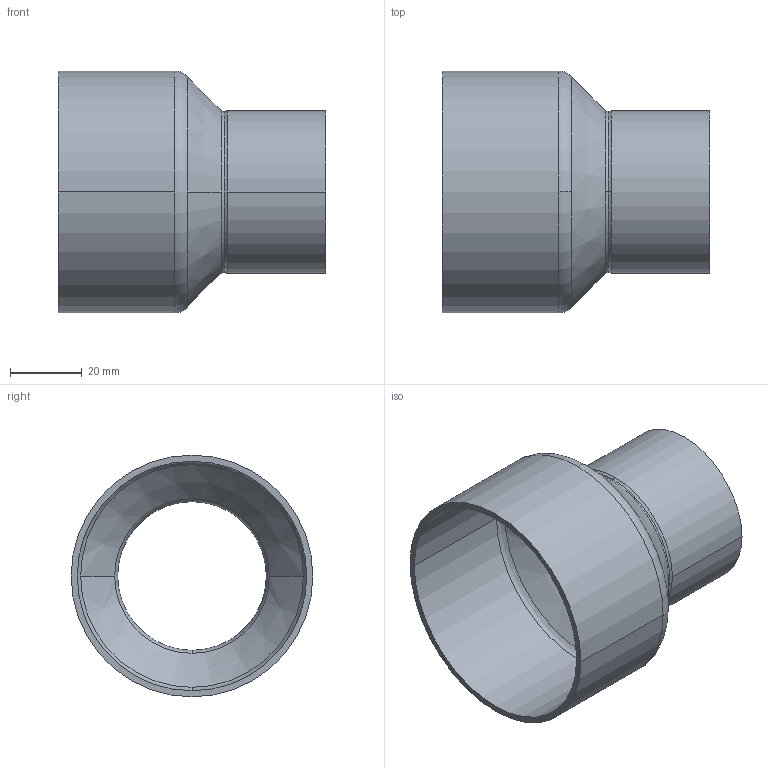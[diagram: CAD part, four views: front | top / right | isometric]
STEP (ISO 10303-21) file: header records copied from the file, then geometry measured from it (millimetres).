
FILE_DESCRIPTION((''),'2;1');
FILE_NAME('G:\Technics\CAD\Bauteile\Serie 15240\152406442.stp','2005-10-21T12:51:18',('boden'),(''),'Autodesk Inventor 8','Autodesk Inventor 8','');
FILE_SCHEMA(('AUTOMOTIVE_DESIGN { 1 0 10303 214 1 1 1 1 }'));
Length unit declared in the file: millimetre
Products named in the file (1): 152406442
Bounding box: 74.7 x 67.6 x 67.6 mm (x, y, z)
Volume: 23463.2 mm3; surface area: 28191.1 mm2
Topology: 1 solids, 1 shells, 26 faces, 68 edges, 44 vertices
Faces by surface type: cylinder 8, torus 6, bspline 6, cone 4, plane 2
Entity records: 1103 total; most frequent: CARTESIAN_POINT 403, DIRECTION 166, ORIENTED_EDGE 136, AXIS2_PLACEMENT_3D 77, EDGE_CURVE 68, CIRCLE 56, VERTEX_POINT 44, EDGE_LOOP 28
